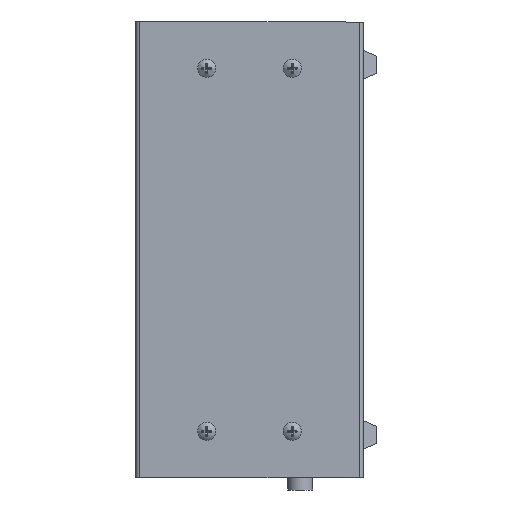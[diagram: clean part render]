
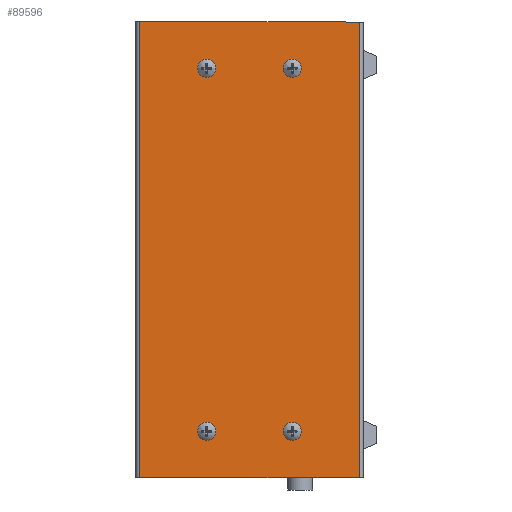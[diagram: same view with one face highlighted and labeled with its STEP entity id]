
A CAD part, left-side view. The second image highlights one B-rep face of the part: STEP entity #89596.
In plain terms, the highlighted planar face has unit normal (-1, 0, 0).
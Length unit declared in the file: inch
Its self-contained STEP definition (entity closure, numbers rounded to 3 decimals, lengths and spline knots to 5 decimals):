
#3351 = ORIENTED_EDGE ( 'NONE', *, *, #281049, .T. ) ;
#6614 = AXIS2_PLACEMENT_3D ( 'NONE', #88674, #12432, #317646 ) ;
#11593 = EDGE_CURVE ( 'NONE', #122289, #122289, #292665, .T. ) ;
#11667 = AXIS2_PLACEMENT_3D ( 'NONE', #184045, #208986, #151032 ) ;
#12432 = DIRECTION ( 'NONE',  ( -1., 0., 0. ) ) ;
#16887 = VERTEX_POINT ( 'NONE', #317124 ) ;
#19651 = CARTESIAN_POINT ( 'NONE',  ( -5., 1.25, -3.348 ) ) ;
#20361 = CARTESIAN_POINT ( 'NONE',  ( -5., 0.072, 4. ) ) ;
#20602 = EDGE_LOOP ( 'NONE', ( #230580, #121109, #173647, #3351 ) ) ;
#25828 = CARTESIAN_POINT ( 'NONE',  ( -5., 2.75, 3.027 ) ) ;
#30673 = CARTESIAN_POINT ( 'NONE',  ( -5., 2.75, 3.1875 ) ) ;
#32727 = ORIENTED_EDGE ( 'NONE', *, *, #323446, .F. ) ;
#33564 = FACE_OUTER_BOUND ( 'NONE', #20602, .T. ) ;
#33919 = DIRECTION ( 'NONE',  ( 0., 0., -1. ) ) ;
#40986 = AXIS2_PLACEMENT_3D ( 'NONE', #234101, #83223, #184237 ) ;
#46598 = EDGE_LOOP ( 'NONE', ( #236128 ) ) ;
#54732 = CARTESIAN_POINT ( 'NONE',  ( -5., 0., 4. ) ) ;
#61286 = VECTOR ( 'NONE', #99836, 39.37008 ) ;
#61366 = VECTOR ( 'NONE', #203912, 39.37008 ) ;
#66458 = CARTESIAN_POINT ( 'NONE',  ( -5., 0.072, 4. ) ) ;
#69051 = CARTESIAN_POINT ( 'NONE',  ( -5., 0.072, -4. ) ) ;
#69964 = EDGE_CURVE ( 'NONE', #75519, #75519, #84954, .T. ) ;
#74588 = AXIS2_PLACEMENT_3D ( 'NONE', #207525, #151204, #106435 ) ;
#75519 = VERTEX_POINT ( 'NONE', #25828 ) ;
#81991 = EDGE_CURVE ( 'NONE', #16887, #16887, #297057, .T. ) ;
#82987 = ORIENTED_EDGE ( 'NONE', *, *, #11593, .F. ) ;
#83223 = DIRECTION ( 'NONE',  ( 1., 0., 0. ) ) ;
#84954 = CIRCLE ( 'NONE', #323426, 0.1605 ) ;
#88674 = CARTESIAN_POINT ( 'NONE',  ( -5., 1.25, -3.1875 ) ) ;
#89596 = ADVANCED_FACE ( 'NONE', ( #182607, #280759, #310560, #209195, #33564 ), #284055, .F. ) ;
#95972 = EDGE_CURVE ( 'NONE', #217074, #316654, #154909, .T. ) ;
#99836 = DIRECTION ( 'NONE',  ( 0., 0., -1. ) ) ;
#106435 = DIRECTION ( 'NONE',  ( 0., 0., -1. ) ) ;
#121109 = ORIENTED_EDGE ( 'NONE', *, *, #256235, .F. ) ;
#122289 = VERTEX_POINT ( 'NONE', #19651 ) ;
#131297 = VERTEX_POINT ( 'NONE', #66458 ) ;
#145268 = DIRECTION ( 'NONE',  ( 0., -1., 0. ) ) ;
#151032 = DIRECTION ( 'NONE',  ( 0., 0., -1. ) ) ;
#151204 = DIRECTION ( 'NONE',  ( -1., 0., 0. ) ) ;
#154909 = LINE ( 'NONE', #181352, #169243 ) ;
#169243 = VECTOR ( 'NONE', #179736, 39.37008 ) ;
#173647 = ORIENTED_EDGE ( 'NONE', *, *, #95972, .F. ) ;
#179736 = DIRECTION ( 'NONE',  ( 0., 0., 1. ) ) ;
#180682 = LINE ( 'NONE', #54732, #61366 ) ;
#181352 = CARTESIAN_POINT ( 'NONE',  ( -5., 3.928, 4. ) ) ;
#182607 = FACE_BOUND ( 'NONE', #46598, .T. ) ;
#182994 = DIRECTION ( 'NONE',  ( -1., 0., 0. ) ) ;
#184045 = CARTESIAN_POINT ( 'NONE',  ( -5., 1.25, 3.1875 ) ) ;
#184237 = DIRECTION ( 'NONE',  ( 0., 1., 0. ) ) ;
#202348 = CIRCLE ( 'NONE', #11667, 0.1605 ) ;
#203868 = CARTESIAN_POINT ( 'NONE',  ( -5., 0.072, -4. ) ) ;
#203912 = DIRECTION ( 'NONE',  ( 0., -1., 0. ) ) ;
#206949 = VECTOR ( 'NONE', #145268, 39.37008 ) ;
#207525 = CARTESIAN_POINT ( 'NONE',  ( -5., 2.75, -3.1875 ) ) ;
#208986 = DIRECTION ( 'NONE',  ( -1., 0., 0. ) ) ;
#209195 = FACE_BOUND ( 'NONE', #230090, .T. ) ;
#217074 = VERTEX_POINT ( 'NONE', #280873 ) ;
#230090 = EDGE_LOOP ( 'NONE', ( #32727 ) ) ;
#230580 = ORIENTED_EDGE ( 'NONE', *, *, #327093, .F. ) ;
#234101 = CARTESIAN_POINT ( 'NONE',  ( -5., 0., 4. ) ) ;
#236128 = ORIENTED_EDGE ( 'NONE', *, *, #81991, .F. ) ;
#247557 = LINE ( 'NONE', #20361, #61286 ) ;
#255333 = CARTESIAN_POINT ( 'NONE',  ( -5., 3.928, 4. ) ) ;
#256235 = EDGE_CURVE ( 'NONE', #316654, #131297, #180682, .T. ) ;
#261221 = ORIENTED_EDGE ( 'NONE', *, *, #69964, .F. ) ;
#276806 = VERTEX_POINT ( 'NONE', #203868 ) ;
#280759 = FACE_BOUND ( 'NONE', #294516, .T. ) ;
#280873 = CARTESIAN_POINT ( 'NONE',  ( -5., 3.928, -4. ) ) ;
#281049 = EDGE_CURVE ( 'NONE', #217074, #276806, #321270, .T. ) ;
#284055 = PLANE ( 'NONE',  #40986 ) ;
#292665 = CIRCLE ( 'NONE', #6614, 0.1605 ) ;
#294516 = EDGE_LOOP ( 'NONE', ( #82987 ) ) ;
#297057 = CIRCLE ( 'NONE', #74588, 0.1605 ) ;
#302250 = CARTESIAN_POINT ( 'NONE',  ( -5., 1.25, 3.027 ) ) ;
#310560 = FACE_BOUND ( 'NONE', #311625, .T. ) ;
#311625 = EDGE_LOOP ( 'NONE', ( #261221 ) ) ;
#316654 = VERTEX_POINT ( 'NONE', #255333 ) ;
#317124 = CARTESIAN_POINT ( 'NONE',  ( -5., 2.75, -3.348 ) ) ;
#317646 = DIRECTION ( 'NONE',  ( 0., 0., -1. ) ) ;
#321270 = LINE ( 'NONE', #69051, #206949 ) ;
#323426 = AXIS2_PLACEMENT_3D ( 'NONE', #30673, #182994, #33919 ) ;
#323446 = EDGE_CURVE ( 'NONE', #327041, #327041, #202348, .T. ) ;
#327041 = VERTEX_POINT ( 'NONE', #302250 ) ;
#327093 = EDGE_CURVE ( 'NONE', #131297, #276806, #247557, .T. ) ;
